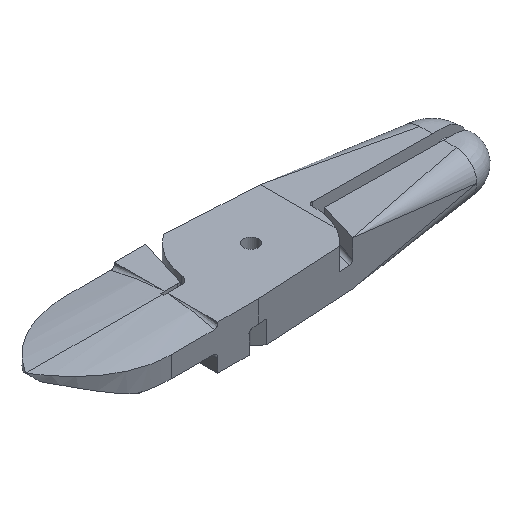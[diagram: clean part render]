
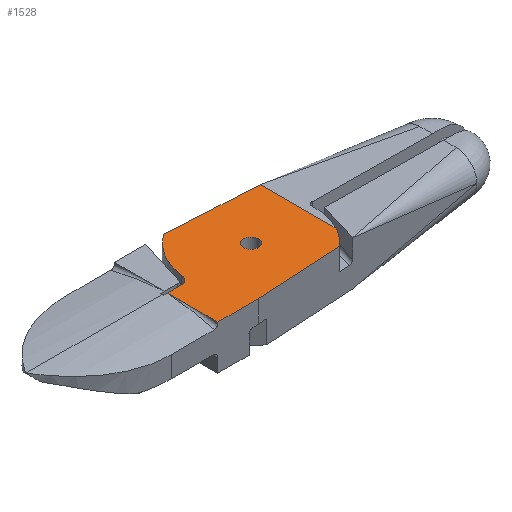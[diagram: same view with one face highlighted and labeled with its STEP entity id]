
A CAD part, isometric view. The second image highlights one B-rep face of the part: STEP entity #1528.
In plain terms, the highlighted planar face has unit normal (0, 0, 1).
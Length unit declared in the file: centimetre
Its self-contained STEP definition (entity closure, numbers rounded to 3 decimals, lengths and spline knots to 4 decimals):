
#17=FACE_BOUND('',#237,.T.);
#70=B_SPLINE_CURVE_WITH_KNOTS('',3,(#4769,#4770,#4771,#4772,#4773,#4774,
#4775,#4776,#4777,#4778,#4779,#4780,#4781,#4782,#4783,#4784,#4785,#4786,
#4787,#4788,#4789,#4790,#4791,#4792,#4793,#4794,#4795,#4796,#4797,#4798,
#4799,#4800,#4801,#4802,#4803,#4804,#4805,#4806,#4807,#4808,#4809,#4810,
#4811,#4812,#4813,#4814,#4815,#4816,#4817,#4818,#4819,#4820,#4821,#4822,
#4823),.UNSPECIFIED.,.F.,.F.,(4,1,1,1,1,1,1,1,1,1,1,1,1,1,1,1,1,1,1,1,1,
1,1,1,1,1,1,1,1,1,1,1,1,1,1,1,1,1,1,1,1,1,1,1,1,1,1,1,1,1,1,1,4),(0.,
0.0002,0.0003,0.0005,0.0006,
0.0007,0.0007,0.0007,0.0007,
0.0007,0.0007,0.0008,0.0008,
0.0008,0.0008,0.0009,0.001,
0.0012,0.0014,0.0018,0.0023,
0.003,0.0038,0.0053,0.008,
0.0122,0.0174,0.0228,0.0339,
0.045,0.056,0.0671,0.0892,
0.1113,0.1334,0.1555,0.1776,
0.1997,0.2218,0.2439,0.2881,
0.3323,0.3766,0.4209,0.4652,
0.5095,0.5539,0.5983,0.6428,
0.7318,0.821,0.9104,1.),.UNSPECIFIED.);
#156=FACE_OUTER_BOUND('',#236,.T.);
#236=EDGE_LOOP('',(#1223,#1224,#1225,#1226,#1227,#1228,#1229,#1230,#1231,
#1232,#1233));
#237=EDGE_LOOP('',(#1234));
#347=LINE('',#4667,#477);
#348=LINE('',#4683,#478);
#361=LINE('',#4708,#491);
#363=LINE('',#4828,#493);
#364=LINE('',#4830,#494);
#365=LINE('',#4834,#495);
#366=LINE('',#4835,#496);
#477=VECTOR('',#1927,0.3489);
#478=VECTOR('',#1930,0.0016);
#491=VECTOR('',#1953,0.3613);
#493=VECTOR('',#1965,1.1);
#494=VECTOR('',#1966,2.333);
#495=VECTOR('',#1969,2.05);
#496=VECTOR('',#1970,2.4856);
#549=CIRCLE('',#1621,0.25);
#558=CIRCLE('',#1645,1.7);
#559=CIRCLE('',#1646,1.7);
#560=CIRCLE('',#1647,0.205);
#650=VERTEX_POINT('',#4436);
#651=VERTEX_POINT('',#4438);
#667=VERTEX_POINT('',#4662);
#669=VERTEX_POINT('',#4665);
#671=VERTEX_POINT('',#4670);
#672=VERTEX_POINT('',#4682);
#680=VERTEX_POINT('',#4825);
#681=VERTEX_POINT('',#4827);
#682=VERTEX_POINT('',#4829);
#683=VERTEX_POINT('',#4831);
#684=VERTEX_POINT('',#4833);
#685=VERTEX_POINT('',#4836);
#831=EDGE_CURVE('',#651,#650,#549,.T.);
#856=EDGE_CURVE('',#667,#669,#347,.T.);
#858=EDGE_CURVE('',#672,#671,#348,.T.);
#871=EDGE_CURVE('',#672,#650,#361,.T.);
#876=EDGE_CURVE('',#671,#667,#70,.T.);
#877=EDGE_CURVE('',#680,#651,#558,.T.);
#878=EDGE_CURVE('',#669,#681,#363,.T.);
#879=EDGE_CURVE('',#681,#682,#364,.T.);
#880=EDGE_CURVE('',#682,#683,#559,.T.);
#881=EDGE_CURVE('',#683,#684,#365,.T.);
#882=EDGE_CURVE('',#684,#680,#366,.T.);
#883=EDGE_CURVE('',#685,#685,#560,.T.);
#1223=ORIENTED_EDGE('',*,*,#877,.T.);
#1224=ORIENTED_EDGE('',*,*,#831,.T.);
#1225=ORIENTED_EDGE('',*,*,#871,.F.);
#1226=ORIENTED_EDGE('',*,*,#858,.T.);
#1227=ORIENTED_EDGE('',*,*,#876,.T.);
#1228=ORIENTED_EDGE('',*,*,#856,.T.);
#1229=ORIENTED_EDGE('',*,*,#878,.T.);
#1230=ORIENTED_EDGE('',*,*,#879,.T.);
#1231=ORIENTED_EDGE('',*,*,#880,.T.);
#1232=ORIENTED_EDGE('',*,*,#881,.T.);
#1233=ORIENTED_EDGE('',*,*,#882,.T.);
#1234=ORIENTED_EDGE('',*,*,#883,.T.);
#1381=PLANE('',#1644);
#1528=ADVANCED_FACE('',(#156,#17),#1381,.T.);
#1621=AXIS2_PLACEMENT_3D('',#4439,#1889,#1890);
#1644=AXIS2_PLACEMENT_3D('',#4824,#1961,#1962);
#1645=AXIS2_PLACEMENT_3D('',#4826,#1963,#1964);
#1646=AXIS2_PLACEMENT_3D('',#4832,#1967,#1968);
#1647=AXIS2_PLACEMENT_3D('',#4837,#1971,#1972);
#1889=DIRECTION('center_axis',(0.,0.,-1.));
#1890=DIRECTION('ref_axis',(0.,-1.,0.));
#1927=DIRECTION('',(0.,-1.,0.));
#1930=DIRECTION('',(-0.073,-0.997,-0.005));
#1953=DIRECTION('',(1.,0.,0.));
#1961=DIRECTION('center_axis',(0.,0.,1.));
#1962=DIRECTION('ref_axis',(1.,0.,0.));
#1963=DIRECTION('center_axis',(0.,0.,1.));
#1964=DIRECTION('ref_axis',(-0.994,0.108,0.));
#1965=DIRECTION('',(1.,0.,0.));
#1966=DIRECTION('',(0.998,0.055,0.));
#1967=DIRECTION('center_axis',(0.,0.,1.));
#1968=DIRECTION('ref_axis',(0.882,-0.471,0.));
#1969=DIRECTION('',(0.,1.,0.));
#1970=DIRECTION('',(-0.998,0.055,0.));
#1971=DIRECTION('center_axis',(0.,0.,-1.));
#1972=DIRECTION('ref_axis',(0.829,0.559,0.));
#4436=CARTESIAN_POINT('',(-1.9387,-0.04,0.));
#4438=CARTESIAN_POINT('',(-1.6901,0.1831,0.));
#4439=CARTESIAN_POINT('Origin',(-1.9387,0.21,0.));
#4662=CARTESIAN_POINT('',(-2.3,-1.0511,0.));
#4665=CARTESIAN_POINT('',(-2.3,-1.4,0.));
#4667=CARTESIAN_POINT('',(-2.3,-1.0511,0.));
#4670=CARTESIAN_POINT('',(-2.3001,-0.0416,-0.0001));
#4682=CARTESIAN_POINT('',(-2.3,-0.04,-0.0001));
#4683=CARTESIAN_POINT('',(-2.3,-0.04,-0.0001));
#4708=CARTESIAN_POINT('',(-2.3,-0.04,0.));
#4769=CARTESIAN_POINT('Ctrl Pts',(-2.3001,-0.0416,
-0.0001));
#4770=CARTESIAN_POINT('Ctrl Pts',(-2.3001,-0.0415,
-0.0001));
#4771=CARTESIAN_POINT('Ctrl Pts',(-2.3,-0.0414,
-0.0001));
#4772=CARTESIAN_POINT('Ctrl Pts',(-2.3,-0.0412,
-0.0001));
#4773=CARTESIAN_POINT('Ctrl Pts',(-2.3,-0.0411,
-0.0001));
#4774=CARTESIAN_POINT('Ctrl Pts',(-2.3,-0.041,
-0.0001));
#4775=CARTESIAN_POINT('Ctrl Pts',(-2.3,-0.0409,
-0.0001));
#4776=CARTESIAN_POINT('Ctrl Pts',(-2.3,-0.0409,
-0.0001));
#4777=CARTESIAN_POINT('Ctrl Pts',(-2.3,-0.0408,
-0.0001));
#4778=CARTESIAN_POINT('Ctrl Pts',(-2.3,-0.0408,
-0.0001));
#4779=CARTESIAN_POINT('Ctrl Pts',(-2.3,-0.0408,
-0.0001));
#4780=CARTESIAN_POINT('Ctrl Pts',(-2.3,-0.0408,
-0.0001));
#4781=CARTESIAN_POINT('Ctrl Pts',(-2.3,-0.0409,
-0.0001));
#4782=CARTESIAN_POINT('Ctrl Pts',(-2.3,-0.0409,
-0.0001));
#4783=CARTESIAN_POINT('Ctrl Pts',(-2.3,-0.0409,
-0.0001));
#4784=CARTESIAN_POINT('Ctrl Pts',(-2.3,-0.041,
-0.0001));
#4785=CARTESIAN_POINT('Ctrl Pts',(-2.3,-0.041,
-0.0001));
#4786=CARTESIAN_POINT('Ctrl Pts',(-2.3,-0.0411,
-0.0001));
#4787=CARTESIAN_POINT('Ctrl Pts',(-2.3,-0.0413,
-0.0001));
#4788=CARTESIAN_POINT('Ctrl Pts',(-2.3001,-0.0415,
0.));
#4789=CARTESIAN_POINT('Ctrl Pts',(-2.3001,-0.0419,
0.));
#4790=CARTESIAN_POINT('Ctrl Pts',(-2.3001,-0.0425,
0.));
#4791=CARTESIAN_POINT('Ctrl Pts',(-2.3001,-0.0431,
0.));
#4792=CARTESIAN_POINT('Ctrl Pts',(-2.3001,-0.0441,0.));
#4793=CARTESIAN_POINT('Ctrl Pts',(-2.3002,-0.0459,
0.));
#4794=CARTESIAN_POINT('Ctrl Pts',(-2.3002,-0.0487,
0.));
#4795=CARTESIAN_POINT('Ctrl Pts',(-2.3004,-0.0528,0.));
#4796=CARTESIAN_POINT('Ctrl Pts',(-2.3006,-0.0577,
0.));
#4797=CARTESIAN_POINT('Ctrl Pts',(-2.3009,-0.0651,0.));
#4798=CARTESIAN_POINT('Ctrl Pts',(-2.3012,-0.0743,
0.));
#4799=CARTESIAN_POINT('Ctrl Pts',(-2.3016,-0.0855,
0.));
#4800=CARTESIAN_POINT('Ctrl Pts',(-2.302,-0.0967,
0.));
#4801=CARTESIAN_POINT('Ctrl Pts',(-2.3024,-0.1116,
0.));
#4802=CARTESIAN_POINT('Ctrl Pts',(-2.3029,-0.1302,
0.));
#4803=CARTESIAN_POINT('Ctrl Pts',(-2.3034,-0.1526,0.));
#4804=CARTESIAN_POINT('Ctrl Pts',(-2.3039,-0.1749,
0.));
#4805=CARTESIAN_POINT('Ctrl Pts',(-2.3042,-0.1972,0.));
#4806=CARTESIAN_POINT('Ctrl Pts',(-2.3045,-0.2196,
0.));
#4807=CARTESIAN_POINT('Ctrl Pts',(-2.3047,-0.2419,
0.));
#4808=CARTESIAN_POINT('Ctrl Pts',(-2.3049,-0.2643,0.));
#4809=CARTESIAN_POINT('Ctrl Pts',(-2.3051,-0.2941,
0.));
#4810=CARTESIAN_POINT('Ctrl Pts',(-2.3052,-0.3313,
0.));
#4811=CARTESIAN_POINT('Ctrl Pts',(-2.3052,-0.3761,
0.));
#4812=CARTESIAN_POINT('Ctrl Pts',(-2.305,-0.4208,
0.));
#4813=CARTESIAN_POINT('Ctrl Pts',(-2.3048,-0.4656,0.));
#4814=CARTESIAN_POINT('Ctrl Pts',(-2.3045,-0.5104,
0.));
#4815=CARTESIAN_POINT('Ctrl Pts',(-2.3041,-0.5552,
0.));
#4816=CARTESIAN_POINT('Ctrl Pts',(-2.3036,-0.6001,0.));
#4817=CARTESIAN_POINT('Ctrl Pts',(-2.3031,-0.645,0.));
#4818=CARTESIAN_POINT('Ctrl Pts',(-2.3025,-0.705,0.));
#4819=CARTESIAN_POINT('Ctrl Pts',(-2.3016,-0.78,
0.));
#4820=CARTESIAN_POINT('Ctrl Pts',(-2.3008,-0.8702,
0.0001));
#4821=CARTESIAN_POINT('Ctrl Pts',(-2.3002,-0.9606,
0.0001));
#4822=CARTESIAN_POINT('Ctrl Pts',(-2.3,-1.0209,0.0001));
#4823=CARTESIAN_POINT('Ctrl Pts',(-2.3,-1.0511,0.));
#4824=CARTESIAN_POINT('Origin',(-0.4056,-1.4,0.));
#4825=CARTESIAN_POINT('',(-0.9817,1.3879,0.));
#4826=CARTESIAN_POINT('Origin',(0.,0.,0.));
#4827=CARTESIAN_POINT('',(-1.2,-1.4,0.));
#4828=CARTESIAN_POINT('',(-2.3,-1.4,0.));
#4829=CARTESIAN_POINT('',(1.1294,-1.2706,0.));
#4830=CARTESIAN_POINT('',(-1.2,-1.4,0.));
#4831=CARTESIAN_POINT('',(1.5,-0.8,0.));
#4832=CARTESIAN_POINT('Origin',(0.,0.,0.));
#4833=CARTESIAN_POINT('',(1.5,1.25,0.));
#4834=CARTESIAN_POINT('',(1.5,-0.8,0.));
#4835=CARTESIAN_POINT('',(1.5,1.25,0.));
#4836=CARTESIAN_POINT('',(0.205,0.,0.));
#4837=CARTESIAN_POINT('Origin',(0.,0.,0.));
